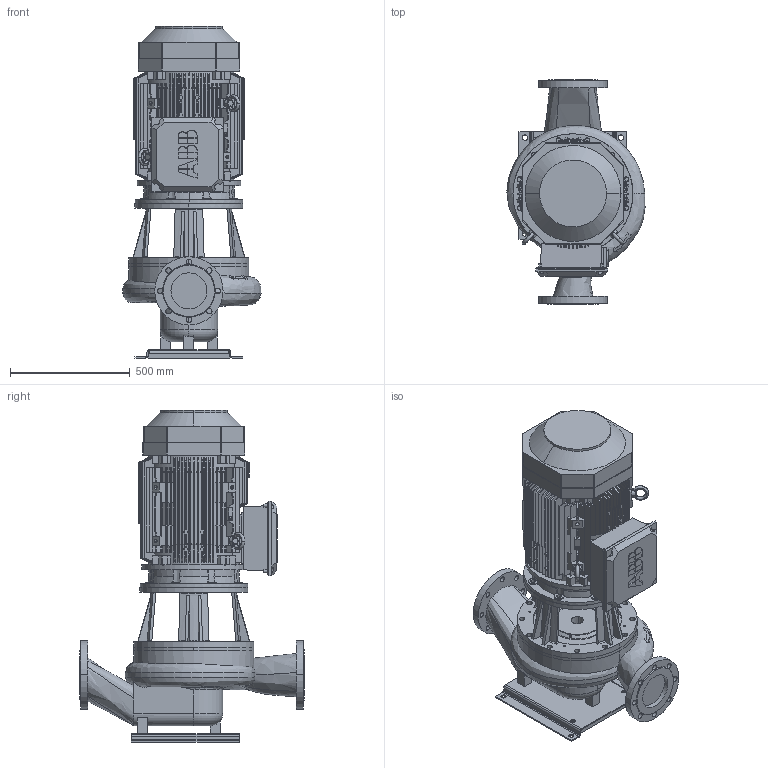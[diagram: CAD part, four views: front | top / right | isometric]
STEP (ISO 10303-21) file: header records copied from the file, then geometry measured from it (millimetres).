
FILE_DESCRIPTION(('STEP AP214'),'1');
FILE_NAME('export.stp','2018-06-06T11:52:49',(' '),(' '),'Spatial InterOp 3D',' ',' ');
FILE_SCHEMA(('AUTOMOTIVE_DESIGN { 1 0 10303 214 1 1 1 1 }'));
Length unit declared in the file: millimetre
Products named in the file (20): W_L150S4SD450-IEC; V_TLL125SAL1250; P101336; ICE-225; -simplified-simplified_parts_Sta; -simplified-simplified_parts_M32; 3GZV183002-193006-183002-183999_; 3GZV311000-999999-324000-324001_; -simplified-simplified_parts_Fan; -simplified-simplified_parts_Ter; 3GZV244000-310999-294000-299999_; ABBstandard-9ADA_Lifting_Eye_9AD; W_L150S_withBase; W_L_150S_pump_new; P100464; P100462; P101191
Assembly tree (21 placements, depth 4):
  W_L150S4SD450-IEC
    V_TLL125SAL1250
    P101336
    ICE-225
      -simplified-simplified_parts_Sta
      -simplified-simplified_parts_M32
      3GZV183002-193006-183002-183999_
      3GZV311000-999999-324000-324001_
      -simplified-simplified_parts_Fan
      -simplified-simplified_parts_Ter
      -simplified-simplified_parts_Ter
      3GZV244000-310999-294000-299999_
      3GZV244000-310999-294000-299999_
      3GZV244000-310999-294000-299999_
      ABBstandard-9ADA_Lifting_Eye_9AD  x2
    W_L150S_withBase
      W_L_150S_pump_new
      P100464
        P100462
        P101191  x2
Bounding box: 575.77 x 935 x 1384.89 mm (x, y, z)
Volume: 167694285.3 mm3; surface area: 7894652.1 mm2
Topology: 15 solids, 221 shells, 2181 faces, 6569 edges, 4637 vertices
Faces by surface type: bspline 1738, cylinder 231, plane 152, torus 34, cone 26
Entity records: 118525 total; most frequent: CARTESIAN_POINT 40651, ORIENTED_EDGE 11654, EDGE_CURVE 6307, STYLED_ITEM 6299, PRESENTATION_STYLE_ASSIGNMENT 6299, COLOUR_RGB 6299, VERTEX_POINT 4461, CURVE_STYLE 4150
